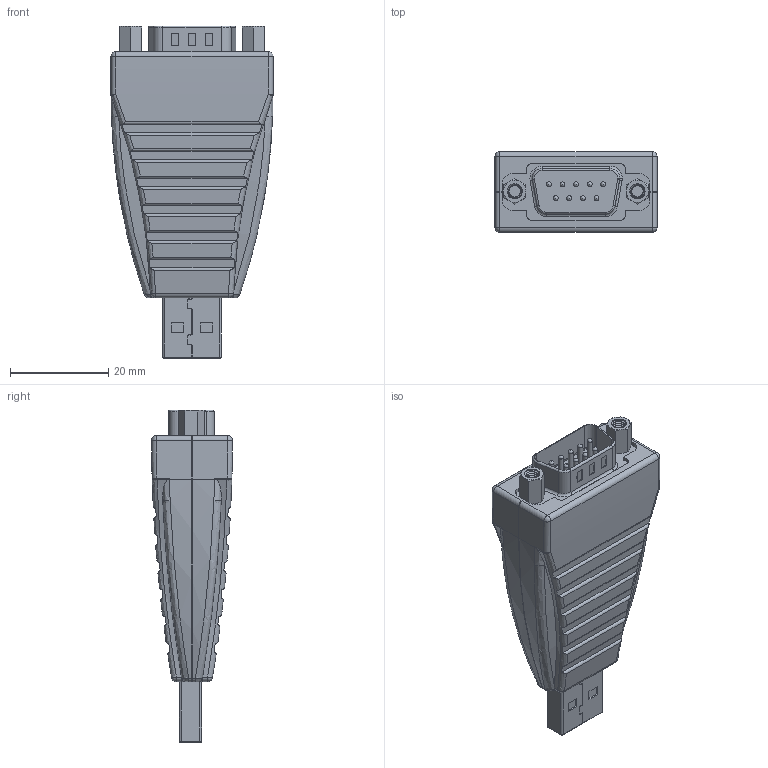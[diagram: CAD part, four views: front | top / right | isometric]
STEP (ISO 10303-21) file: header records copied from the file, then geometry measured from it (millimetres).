
FILE_DESCRIPTION(/* description */ (''),/* implementation_level */ '2;1');
FILE_NAME(/* name */ '/Users/leo/Desktop/Desktop - Leonardo’s MacBook Air/Coolgear May/Serial-B/SERIAL-B Model3D LPV1.step',/* time_stamp */ '2021-07-19T16:00:31-04:00',/* author */ (''),/* organization */ (''),/* preprocessor_version */ 'ST-DEVELOPER v18.1',/* originating_system */ 'Autodesk Translation Framework v10.9.0.1377',/* authorisation */ '');
FILE_SCHEMA (('AUTOMOTIVE_DESIGN { 1 0 10303 214 3 1 1 }'));
Products named in the file (1): FusionComponent
Bounding box: 33 x 16.5 x 67.63 mm (x, y, z)
Volume: 8250.8 mm3; surface area: 12186.4 mm2
Topology: 10 solids, 15 shells, 1156 faces, 3007 edges, 1820 vertices
Faces by surface type: plane 498, cylinder 422, bspline 110, sphere 46, torus 40, cone 40
Full cylindrical faces by diameter (mm): 1 x20, 1.5 x9, 2.345 x2, 2.35 x14, 3 x22, 4.4 x2
Entity records: 45471 total; most frequent: CARTESIAN_POINT 18484, ORIENTED_EDGE 5872, DIRECTION 5256, EDGE_CURVE 2936, VERTEX_POINT 1828, AXIS2_PLACEMENT_3D 1820, LINE 1616, VECTOR 1616
